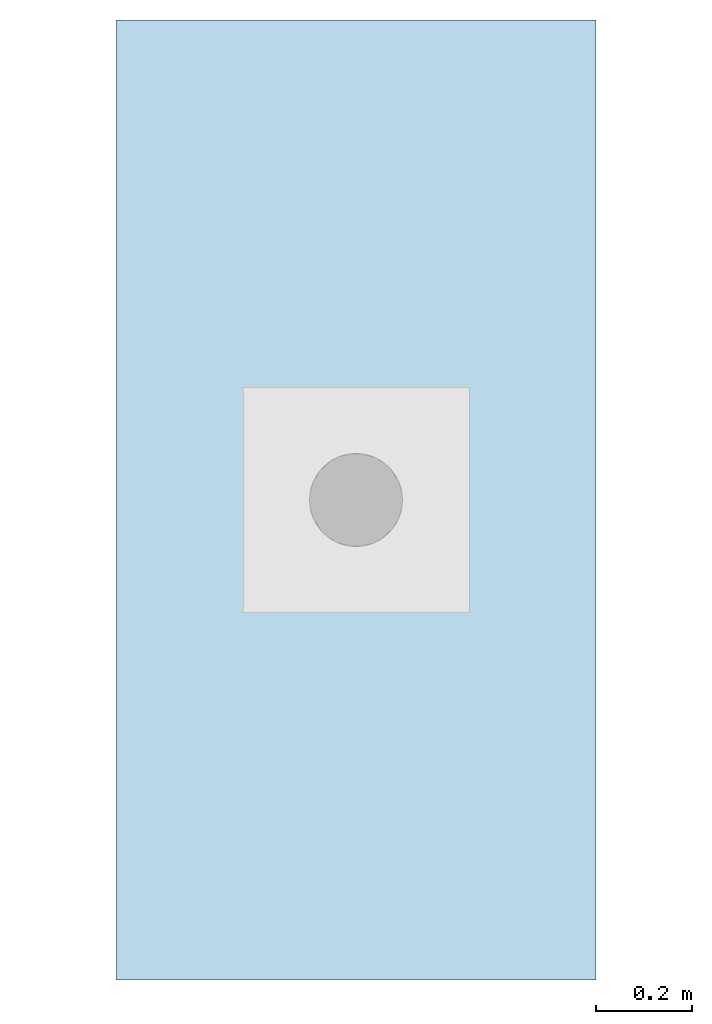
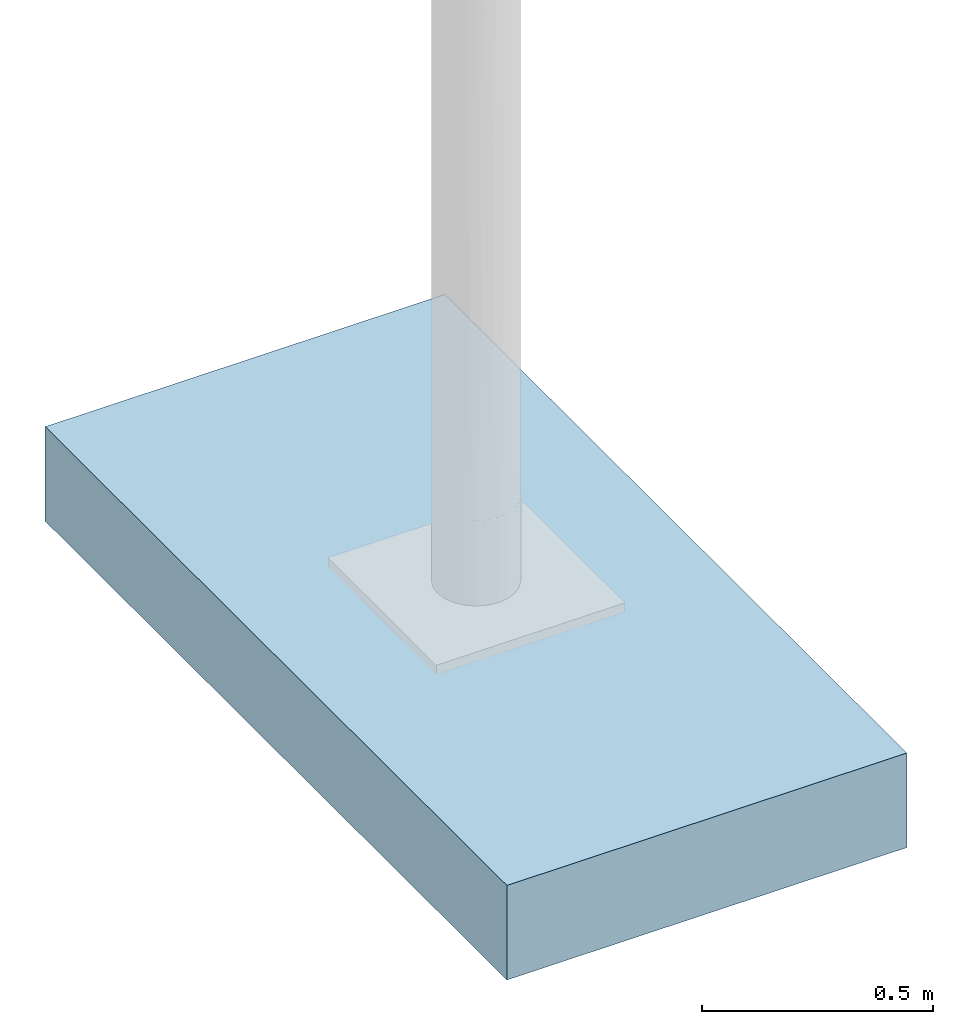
# One storey, incomplete: 1 slab.
"""IFC4 building model written with IfcOpenShell, lengths in metres."""

from ifc_helpers import new_model, entity, si_unit, converted_unit, direction, frame, frame_2d, origin, place, context, subcontext, project, spatial, rectangle, extrude, type_object, element, save


model = new_model("IFC4")

# Units and contexts
model_context = context("Model", 3, precision=1e-05, world=origin(), true_north=direction((6.123031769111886e-17, 1.0)))
body_context = subcontext(model_context, "Body", "Model", "MODEL_VIEW")
ifc_project = project(units=[si_unit("LENGTHUNIT", "METRE"), converted_unit("PLANEANGLEUNIT", "DEGREE", entity("IfcPlaneAngleMeasure", 0.017453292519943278), si_unit("PLANEANGLEUNIT", "RADIAN"), dimensions=[0, 0, 0, 0, 0, 0, 0]), si_unit("AREAUNIT", "SQUARE_METRE")], contexts=[model_context])

# Site, building, storey
site_placement = place(None, origin())
site = spatial("IfcSite", under=ifc_project, at=site_placement, Name="Default", CompositionType="ELEMENT")
building_placement = place(site_placement, origin())
building = spatial("IfcBuilding", under=site, at=building_placement, CompositionType="ELEMENT")
storey_placement = place(building_placement, origin())
storey = spatial("IfcBuildingStorey", under=building, at=storey_placement, Name="Ebene 0", CompositionType="ELEMENT", Elevation=0.0)

# Slab
slab_type = type_object("IfcSlabType", Name="DB_ZIM_Fundament:DB_ZIM_Fundament", PredefinedType="BASESLAB")
slab_placement = place(storey_placement, origin())
element("IfcSlab", 1, at=slab_placement, inside=storey, type_object=slab_type, Name="DB_ZIM_Fundament:DB_ZIM_Fundament", ObjectType="DB_ZIM_Fundament:DB_ZIM_Fundament", PredefinedType="BASESLAB", context=body_context, shape_type="SweptSolid", body=[
    extrude(rectangle(XDim=0.9999999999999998, YDim=2.0, at=frame_2d((0.09999999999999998, 0.0), x_axis=(1.0, 0.0))), frame((-0.09999999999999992, 0.0, -0.5001999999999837)), (0.0, 0.0, 1.0), 0.25),
])

save(model, "model.ifc")
